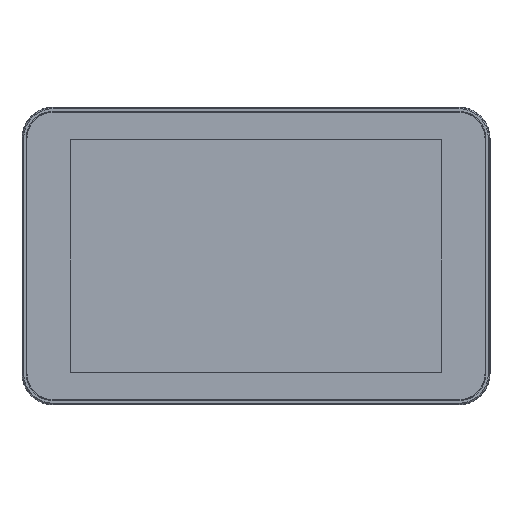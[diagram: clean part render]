
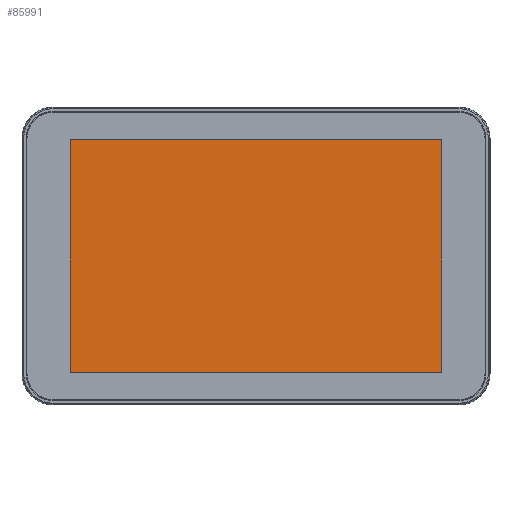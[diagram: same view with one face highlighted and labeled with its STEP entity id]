
A CAD part, top view. The second image highlights one B-rep face of the part: STEP entity #85991.
In plain terms, the highlighted planar face has unit normal (0, 0, 1).
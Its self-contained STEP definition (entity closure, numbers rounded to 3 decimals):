
#1142 = CARTESIAN_POINT ( 'NONE',  ( 131.06, 82.1, 5.6 ) ) ;
#2135 = ORIENTED_EDGE ( 'NONE', *, *, #60032, .F. ) ;
#11472 = FACE_OUTER_BOUND ( 'NONE', #81497, .T. ) ;
#13348 = ORIENTED_EDGE ( 'NONE', *, *, #88902, .F. ) ;
#13472 = LINE ( 'NONE', #32477, #85631 ) ;
#14357 = DIRECTION ( 'NONE',  ( -1., 0., 0. ) ) ;
#14801 = EDGE_CURVE ( 'NONE', #21189, #39478, #13472, .T. ) ;
#21189 = VERTEX_POINT ( 'NONE', #45835 ) ;
#30462 = CARTESIAN_POINT ( 'NONE',  ( -143., -83., 5.6 ) ) ;
#31297 = ORIENTED_EDGE ( 'NONE', *, *, #48838, .F. ) ;
#32477 = CARTESIAN_POINT ( 'NONE',  ( -131.06, -83., 5.6 ) ) ;
#32661 = AXIS2_PLACEMENT_3D ( 'NONE', #30462, #97487, #50040 ) ;
#36082 = LINE ( 'NONE', #74693, #64136 ) ;
#39478 = VERTEX_POINT ( 'NONE', #53783 ) ;
#42046 = VERTEX_POINT ( 'NONE', #1142 ) ;
#45835 = CARTESIAN_POINT ( 'NONE',  ( -131.06, -82.1, 5.6 ) ) ;
#48838 = EDGE_CURVE ( 'NONE', #39478, #42046, #55618, .T. ) ;
#50040 = DIRECTION ( 'NONE',  ( 1., 0., 0. ) ) ;
#53783 = CARTESIAN_POINT ( 'NONE',  ( -131.06, 82.1, 5.6 ) ) ;
#55618 = LINE ( 'NONE', #94192, #67539 ) ;
#60032 = EDGE_CURVE ( 'NONE', #42046, #79592, #36082, .T. ) ;
#60167 = PLANE ( 'NONE',  #32661 ) ;
#62432 = LINE ( 'NONE', #101028, #105494 ) ;
#64136 = VECTOR ( 'NONE', #65172, 1000. ) ;
#65172 = DIRECTION ( 'NONE',  ( 0., -1., 0. ) ) ;
#67539 = VECTOR ( 'NONE', #67636, 1000. ) ;
#67636 = DIRECTION ( 'NONE',  ( 1., 0., 0. ) ) ;
#71069 = DIRECTION ( 'NONE',  ( 0., 1., 0. ) ) ;
#74693 = CARTESIAN_POINT ( 'NONE',  ( 131.06, -83., 5.6 ) ) ;
#79592 = VERTEX_POINT ( 'NONE', #96616 ) ;
#81497 = EDGE_LOOP ( 'NONE', ( #31297, #115274, #13348, #2135 ) ) ;
#85631 = VECTOR ( 'NONE', #71069, 1000. ) ;
#85991 = ADVANCED_FACE ( 'NONE', ( #11472 ), #60167, .T. ) ;
#88902 = EDGE_CURVE ( 'NONE', #79592, #21189, #62432, .T. ) ;
#94192 = CARTESIAN_POINT ( 'NONE',  ( -143., 82.1, 5.6 ) ) ;
#96616 = CARTESIAN_POINT ( 'NONE',  ( 131.06, -82.1, 5.6 ) ) ;
#97487 = DIRECTION ( 'NONE',  ( 0., 0., 1. ) ) ;
#101028 = CARTESIAN_POINT ( 'NONE',  ( -143., -82.1, 5.6 ) ) ;
#105494 = VECTOR ( 'NONE', #14357, 1000. ) ;
#115274 = ORIENTED_EDGE ( 'NONE', *, *, #14801, .F. ) ;
